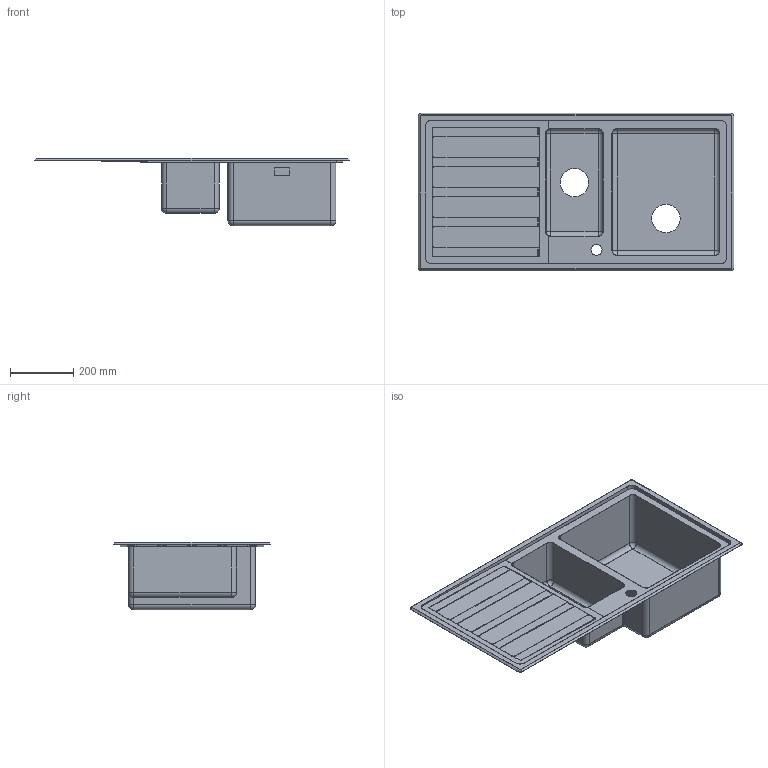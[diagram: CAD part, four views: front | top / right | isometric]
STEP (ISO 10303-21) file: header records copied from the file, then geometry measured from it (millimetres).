
FILE_DESCRIPTION(('CATIA V5 STEP Exchange'),'2;1');
FILE_NAME('C:\Users\linop\Desktop\LD102D-2.stp','2018-05-25T07:22:33+00:00',('none'),('none'),'CATIA Version 5-6 Release 2014','CATIA V5 STEP AP203','none');
FILE_SCHEMA(('CONFIG_CONTROL_DESIGN'));
Length unit declared in the file: millimetre
Products named in the file (1): LD102D-2
Bounding box: 1000 x 500 x 214 mm (x, y, z)
Volume: 829755.7 mm3; surface area: 1944570.5 mm2
Topology: 3 solids, 3 shells, 246 faces, 652 edges, 400 vertices
Faces by surface type: plane 124, cylinder 98, sphere 16, cone 8
Entity records: 7244 total; most frequent: CARTESIAN_POINT 1468, ORIENTED_EDGE 1272, DIRECTION 1005, EDGE_CURVE 636, VECTOR 416, LINE 416, VERTEX_POINT 400, AXIS2_PLACEMENT_3D 381
